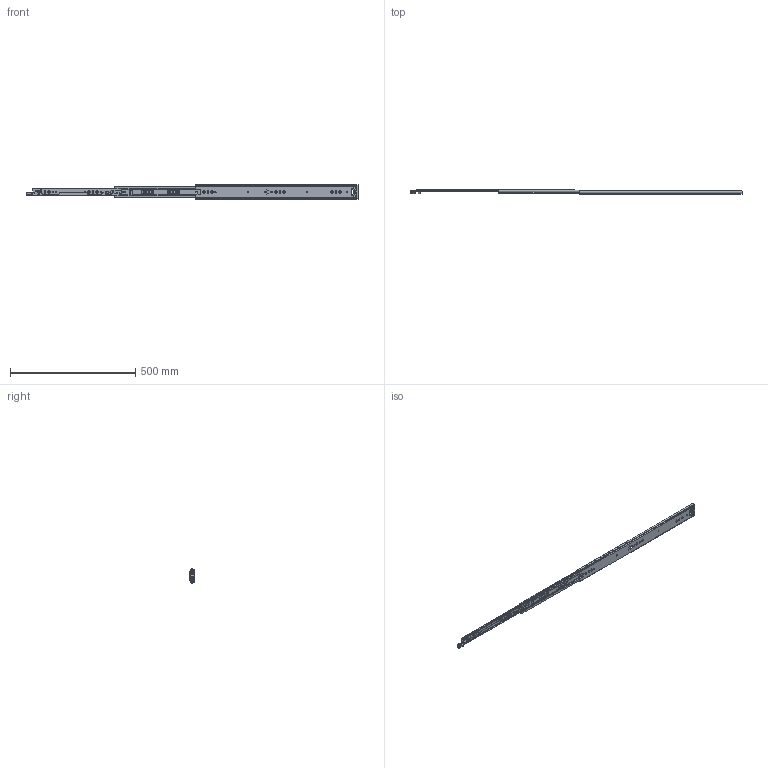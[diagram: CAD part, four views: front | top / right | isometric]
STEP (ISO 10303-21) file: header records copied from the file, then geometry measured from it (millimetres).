
FILE_DESCRIPTION((''),'2;1');
FILE_NAME('KP-57-01ZUZHUANGTU-26_ASM','2023-03-30T',('jishu015'),(''),'PRO/ENGINEER BY PARAMETRIC TECHNOLOGY CORPORATION, 2010280','PRO/ENGINEER BY PARAMETRIC TECHNOLOGY CORPORATION, 2010280','');
FILE_SCHEMA(('CONFIG_CONTROL_DESIGN'));
Products named in the file (22): KP-57-01WEIKE-18_____________; 1057WEIJIAO_____________; WAIKE____________ASM; KP-57-01ZHONGGUI-26; ZHONGGUIPEIJIAN-11___________; ZHONGGUISUOKOU-11___________; KP-57-01ZHONGGUI-26_ASM; 1057XIAOZHUJIA_____________; 1057-5-6GANZHU_____________; 1057XIAOZHUJIA-14GE26_ASM; KP-57-01NEIGUI-18_____________; PJ-57-08___________; DIAOPIAN-11___________; 50XINSUOKOU-1___________; TANHUANG___________; 1053-3SBANJI122_________; JIAO11_________; KP-57-01NEIGUI-18______________ASM; 1053ZHUTIAO-275; 53-5-6GANZHU_________________; 1053ZHUTIAO-175MM____________ASM; KP-57-01ZUZHUANGTU-26_ASM
Assembly tree (75 placements, depth 3):
  KP-57-01ZUZHUANGTU-26_ASM
    WAIKE____________ASM
      KP-57-01WEIKE-18_____________
      1057WEIJIAO_____________
    KP-57-01ZHONGGUI-26_ASM
      KP-57-01ZHONGGUI-26
      ZHONGGUIPEIJIAN-11___________
      ZHONGGUISUOKOU-11___________
    1057XIAOZHUJIA-14GE26_ASM
      1057XIAOZHUJIA_____________
      1057-5-6GANZHU_____________  x44
    KP-57-01NEIGUI-18______________ASM
      KP-57-01NEIGUI-18_____________
      PJ-57-08___________
      DIAOPIAN-11___________
      50XINSUOKOU-1___________
      TANHUANG___________
      1053-3SBANJI122_________
      JIAO11_________
    1053ZHUTIAO-175MM____________ASM  x2
      1053ZHUTIAO-275
      53-5-6GANZHU_________________
Bounding box: 1326.92 x 19 x 57.67 mm (x, y, z)
Volume: 284039.5 mm3; surface area: 308629.6 mm2
Topology: 84 solids, 84 shells, 2246 faces, 6445 edges, 4034 vertices
Faces by surface type: cylinder 956, plane 925, sphere 143, bspline 106, cone 68, torus 25, extrusion 23
Entity records: 73359 total; most frequent: CARTESIAN_POINT 18372, ORIENTED_EDGE 11642, DIRECTION 11298, EDGE_CURVE 5821, AXIS2_PLACEMENT_3D 3903, VERTEX_POINT 3758, VECTOR 3492, LINE 3469
